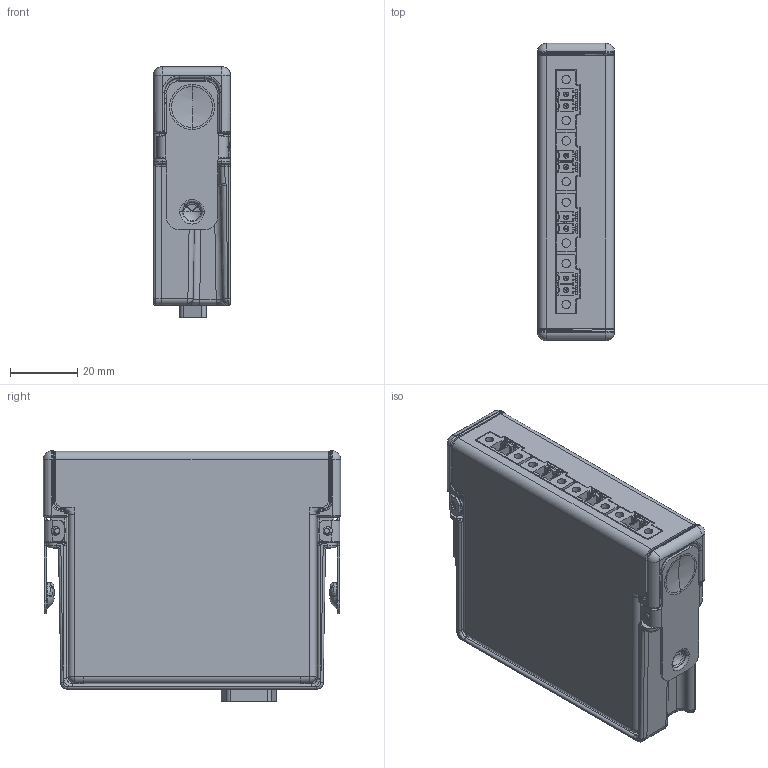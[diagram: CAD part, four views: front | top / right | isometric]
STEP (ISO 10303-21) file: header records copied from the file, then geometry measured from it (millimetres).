
FILE_DESCRIPTION((''),'2;1');
FILE_NAME('CU_NI_9222-9223','2011-03-10T',('dkendric'),(''),'PRO/ENGINEER BY PARAMETRIC TECHNOLOGY CORPORATION, 2010230','PRO/ENGINEER BY PARAMETRIC TECHNOLOGY CORPORATION, 2010230','');
FILE_SCHEMA(('CONFIG_CONTROL_DESIGN'));
Products named in the file (1): CU_NI_9222-9223
Bounding box: 22.86 x 88.11 x 74.24 mm (x, y, z)
Volume: 39466.1 mm3; surface area: 47373.9 mm2
Topology: 13 solids, 13 shells, 2100 faces, 5147 edges, 3092 vertices
Faces by surface type: plane 910, cylinder 686, bspline 365, torus 56, sphere 39, cone 38, extrusion 6
Entity records: 83257 total; most frequent: CARTESIAN_POINT 36717, ORIENTED_EDGE 10150, DIRECTION 8847, EDGE_CURVE 5075, VERTEX_POINT 3130, AXIS2_PLACEMENT_3D 3029, VECTOR 2789, LINE 2783
